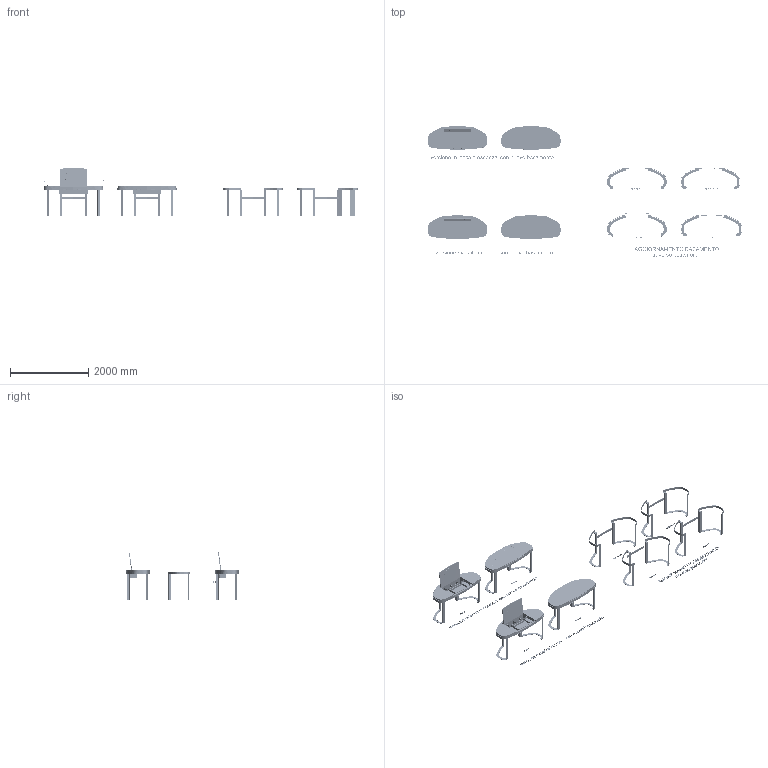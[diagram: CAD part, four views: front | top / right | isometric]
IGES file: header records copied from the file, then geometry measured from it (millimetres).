
Global section: file name: M:\Rossi di Albizzate 2024\Vanity Table\Vanity table 01 - Dolls\Modelli 3D\2024-05-30 INVIO IGS\2024-05-30 Lipparini - Rossi di Albizzate - Dolls - Updates.igs; native system: Rhinoceros ( Apr 16 2024 ); preprocessor: Trout Lake IGES 012 Apr 16 2024; date: 240530.143844; units: millimetre
Bounding box: 8507.35 x 3363.89 x 1224.59 mm (x, y, z)
Surface area: 31801186.5 mm2 (no closed solid volume)
Topology: 0 solids, 0 shells, 26410 faces, 115769 edges, 93537 vertices
Faces by surface type: bspline 26410
